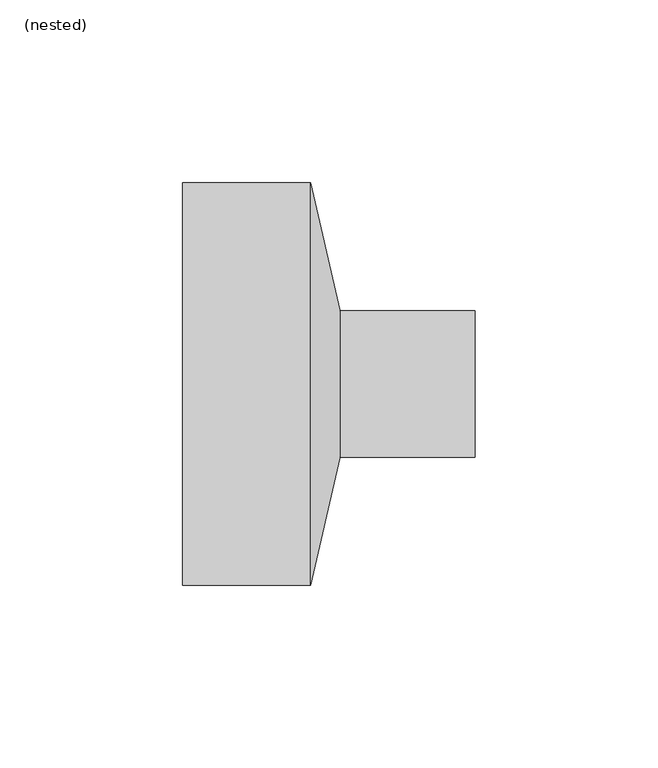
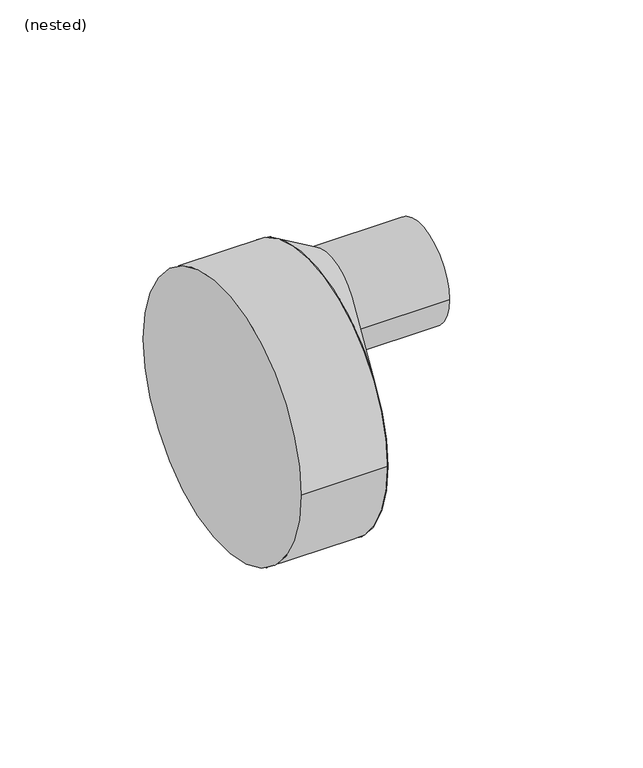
"""IFC4 building model written with IfcOpenShell, lengths in millimetres: pipe fitting geometry, NLRS_52_PIF_UN_PE verloop excentrisch, kort_SH_geb : (nested)."""

from ifc_helpers import new_model, si_unit, point, frame, frame_2d, origin, origin_2d, place, context, project, spatial, circle_curve, trimmed, segment, composite_curve, outline, extrude, source, transform, mapped, element, save
from ifc_brep_helpers import plane_surface, spline_surface, advanced_brep


def nested_5c74db91(model_context):
    return source(origin(), model_context, "Body", "SolidModel", [
        advanced_brep(
        [(4.0, -20.0, 34.0), (4.0, 20.0, 34.0), (-4.0, -55.0, 0.0), (-4.0, 55.0, 0.0)],
        [
            (0, 1, circle_curve(frame((4.0, 0.0, 34.0), z_axis=(1.0, 0.0, 0.0), x_axis=(0.0, 1.0, 0.0)), 20.0)),
            (1, 0, circle_curve(frame((4.0, 0.0, 34.0), z_axis=(1.0, 0.0, 0.0), x_axis=(0.0, 1.0, 0.0)), 20.0)),
            (2, 3, circle_curve(frame((-4.0, 0.0, 0.0), z_axis=(-1.0, 0.0, 0.0), x_axis=(0.0, 1.0, 0.0)), 55.0)),
            (3, 2, circle_curve(frame((-4.0, 0.0, 0.0), z_axis=(-1.0, 0.0, 0.0), x_axis=(0.0, 1.0, 0.0)), 55.0)),
            (3, 1),
            (0, 2),
        ],
        [
            plane_surface(frame((4.0, 0.0, 34.0), z_axis=(1.0, 0.0, 0.0), x_axis=(0.0, 0.0, -1.0))),
            plane_surface(frame((-4.0, 0.0, 0.0), z_axis=(-1.0, 0.0, 0.0), x_axis=(0.0, 0.0, -1.0))),
            spline_surface(2, 1, [[(-4.0, -55.0, 0.0), (4.0, -20.0, 34.0)], [(-4.0, -55.0, -55.0), (4.0, -20.0, 14.0)], [(-4.0, 0.0, -55.0), (4.0, 0.0, 14.0)], [(-4.0, 55.0, -55.0), (4.0, 20.0, 14.0)], [(-4.0, 55.0, 0.0), (4.0, 20.0, 34.0)]], [3, 2, 3], [2, 2], [0.0, 1.0, 2.0], [0.0, 1.0], weights=[[1.0, 1.0], [0.7071067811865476, 0.7071067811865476], [1.0, 1.0], [0.7071067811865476, 0.7071067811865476], [1.0, 1.0]]),
            spline_surface(2, 1, [[(-4.0, 55.0, 0.0), (4.0, 20.0, 34.0)], [(-4.0, 55.0, 55.0), (4.0, 20.0, 54.0)], [(-4.0, 0.0, 55.0), (4.0, 0.0, 54.0)], [(-4.0, -55.0, 55.0), (4.0, -20.0, 54.0)], [(-4.0, -55.0, 0.0), (4.0, -20.0, 34.0)]], [3, 2, 3], [2, 2], [0.0, 1.0, 2.0], [0.0, 1.0], weights=[[1.0, 1.0], [0.7071067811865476, 0.7071067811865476], [1.0, 1.0], [0.7071067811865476, 0.7071067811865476], [1.0, 1.0]]),
        ],
        [
            (0, [[1, 2]]),
            (1, [[3, 4]]),
            (2, [[-4, 5, -1, 6]]),
            (3, [[-3, -6, -2, -5]]),
        ],
    ),
        extrude(outline(composite_curve([segment(trimmed(circle_curve(frame_2d((0.0, 34.0)), 20.0), [point((-20.0, 34.0))], [point((20.0, 34.0))], False, "CARTESIAN"), True, "CONTINUOUS"), segment(trimmed(circle_curve(frame_2d((0.0, 34.0)), 20.0), [point((20.0, 34.0))], [point((-20.0, 34.0))], False, "CARTESIAN"), True, "CONTINUOUS")], self_intersect=False)), frame((4.0, 0.0, 0.0), z_axis=(1.0, 0.0, 0.0), x_axis=(0.0, 1.0, 0.0)), (0.0, 0.0, 1.0), 37.0),
        extrude(outline(composite_curve([segment(trimmed(circle_curve(origin_2d(), 55.0), [point((-55.0, 0.0))], [point((55.0, 0.0))], False, "CARTESIAN"), True, "CONTINUOUS"), segment(trimmed(circle_curve(origin_2d(), 55.0), [point((55.0, 0.0))], [point((-55.0, 0.0))], False, "CARTESIAN"), True, "CONTINUOUS")], self_intersect=False)), frame((-39.0, 0.0, 0.0), z_axis=(1.0, 0.0, 0.0), x_axis=(0.0, 1.0, 0.0)), (0.0, 0.0, 1.0), 35.0),
    ])


if __name__ == "__main__":
    model = new_model("IFC4")
    model_context = context("Model", 3, world=origin())
    ifc_project = project(units=[si_unit("LENGTHUNIT", "METRE", prefix="MILLI")], contexts=[model_context])
    site = spatial("IfcSite", under=ifc_project)
    building = spatial("IfcBuilding", under=site)
    placement = place(None, origin())
    nested_shape = nested_5c74db91(model_context)
    element("IfcPipeFitting", 1, ObjectType="NLRS_52_PIF_UN_PE verloop excentrisch, kort_SH_geb : (nested)", at=placement, inside=building, context=model_context, shape_type="MappedRepresentation", body=[
        mapped(nested_shape, transform((0.0, 0.0, 0.0), x_axis=(1.0, 0.0, 0.0), y_axis=(0.0, 1.0, 0.0), z_axis=(0.0, 0.0, 1.0))),
    ])
    save(model, "model.ifc")
